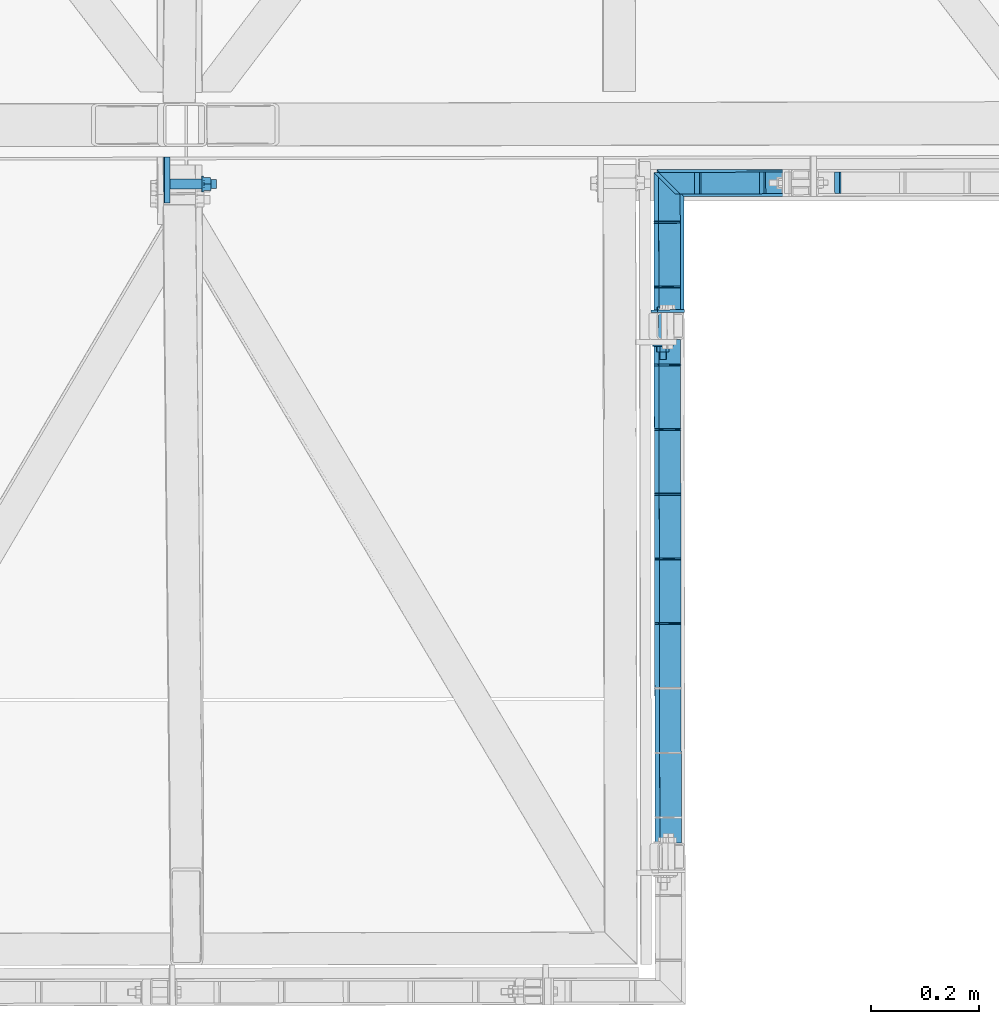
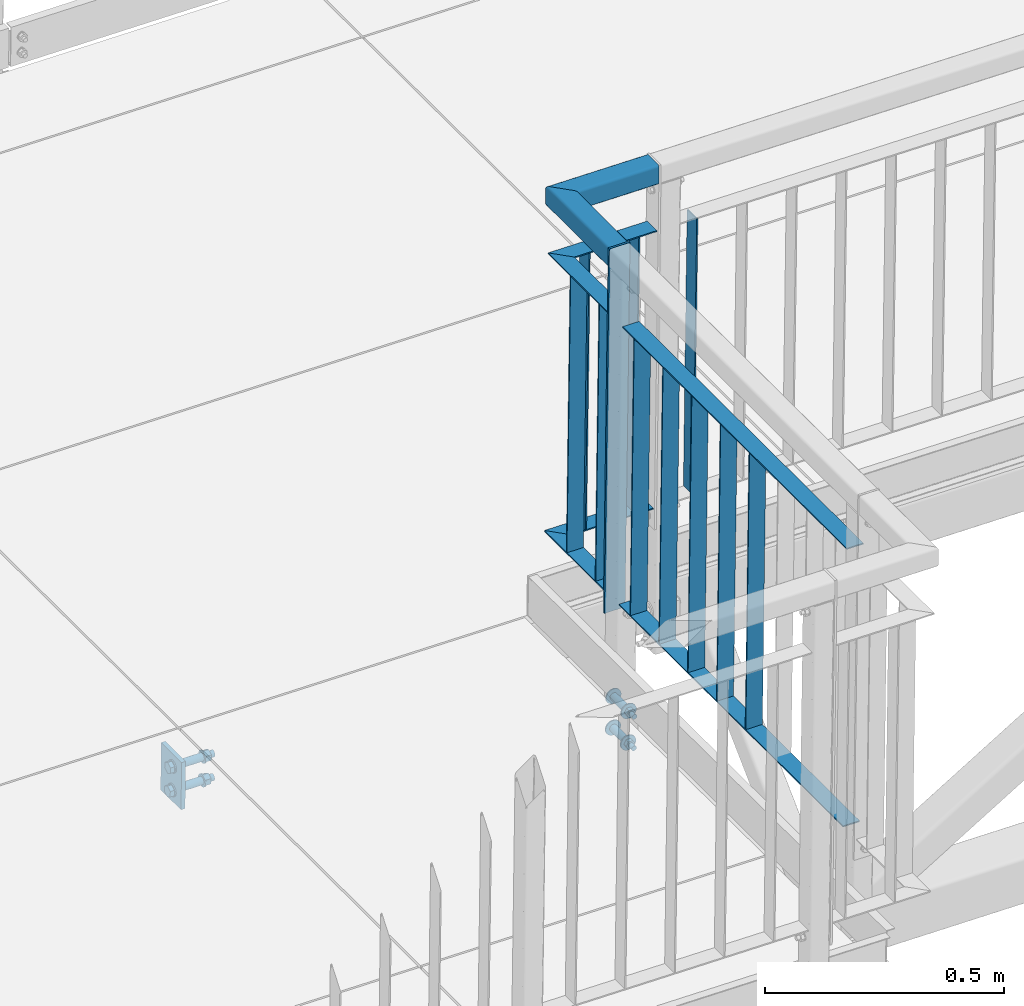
# One storey, part 110 of 169: 20 discrete accessories, 2 mechanical fasteners, 3 elements without a shape of their own.
"""IFC2X3 building model written with IfcOpenShell, lengths in millimetres."""

from ifc_helpers import new_model, si_unit, frame, frame_2d, origin_with_axes, origin_2d_with_axis, place, context, subcontext, project, spatial, polyline, circle_curve, parameter, trimmed, segment, composite_curve, rectangle, hollow_rectangle, circle, outline, extrude, boolean, clip, halfspace, source, transform, mapped, material, type_object, element, aggregate, save


model = new_model("IFC2X3")

# Units and contexts
model_context = context("Model", 3, precision=1e-05, world=origin_with_axes())
body_context = subcontext(model_context, "Body", "Model", "MODEL_VIEW")
ifc_project = project(units=[si_unit("LENGTHUNIT", "METRE", prefix="MILLI"), si_unit("AREAUNIT", "SQUARE_METRE"), si_unit("VOLUMEUNIT", "CUBIC_METRE"), si_unit("MASSUNIT", "GRAM", prefix="KILO"), si_unit("TIMEUNIT", "SECOND"), si_unit("PLANEANGLEUNIT", "RADIAN"), si_unit("SOLIDANGLEUNIT", "STERADIAN"), si_unit("THERMODYNAMICTEMPERATUREUNIT", "DEGREE_CELSIUS"), si_unit("LUMINOUSINTENSITYUNIT", "LUMEN")], contexts=[model_context])

# Site, building, storey
site_placement = place(None, origin_with_axes())
site = spatial("IfcSite", under=ifc_project, at=site_placement, Name="Undefined", CompositionType="ELEMENT")
building_placement = place(site_placement, origin_with_axes())
building = spatial("IfcBuilding", under=site, at=building_placement, Name="Undefined", CompositionType="ELEMENT")
storey_placement = place(building_placement, origin_with_axes())
storey = spatial("IfcBuildingStorey", under=building, at=storey_placement, Name="Undefined", CompositionType="ELEMENT", Elevation=0.0)

# Assembly, discrete accessories, mechanical fastener
assembly_1_placement = place(storey_placement, origin_with_axes())
assembly_1 = element("IfcElementAssembly", 1, at=assembly_1_placement, inside=storey, Name="Steel Assembly", AssemblyPlace="NOTDEFINED", PredefinedType="RIGID_FRAME")
ifc_material_1 = material(Name="STEEL/S235")
discrete_accessory_type_1 = type_object("IfcDiscreteAccessoryType", Name="BLACHA")
discrete_accessory_1_placement = place(assembly_1_placement, frame((10206.4329440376, -223.452963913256, 14083.5351492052), z_axis=(0.00186484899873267, -0.999998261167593, 4.28757666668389e-08), x_axis=(0.9999174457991, 0.00186469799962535, -0.0127131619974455)))
discrete_accessory_1 = element("IfcDiscreteAccessory", 2, at=discrete_accessory_1_placement, type_object=discrete_accessory_type_1, material=ifc_material_1, Name="BLACHA", ObjectType="BL5*50", context=body_context, shape_type="SweptSolid", body=[
    extrude(outline(polyline([(0.0, 0.0), (50.0000000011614, 3.27418092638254e-11), (50.0000000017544, 926.000000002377), (3.10365066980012e-08, 926.000000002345), (0.0, 0.0)])), frame((6.80888809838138e-19, -2.87858853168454e-21, -2.49999999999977), z_axis=(0.0, 0.0, 1.0), x_axis=(1.0, 0.0, 0.0)), (0.0, 0.0, 1.0), 5.0),
])
discrete_accessory_type_2 = type_object("IfcDiscreteAccessoryType", Name="PORĘCZ")
discrete_accessory_2_placement = place(assembly_1_placement, frame((10242.890081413, -225.884938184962, 14984.1445054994), z_axis=(-0.999917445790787, -0.00186469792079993, 0.0127131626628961), x_axis=(-0.0018648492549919, 0.999998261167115, -4.2996762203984e-08)))
discrete_accessory_2 = element("IfcDiscreteAccessory", 3, at=discrete_accessory_2_placement, type_object=discrete_accessory_type_2, material=ifc_material_1, Name="PORĘCZ", ObjectType="RHS50*3", context=body_context, shape_type="Clipping", body=[
    clip(clip(extrude(hollow_rectangle(XDim=50.0, YDim=50.0, WallThickness=3.0, InnerFilletRadius=3.0, OuterFilletRadius=6.0, at=origin_2d_with_axis()), frame((265.346564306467, 1.81899034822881e-12, 7.15958396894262e-18), z_axis=(-1.0, -3.46944695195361e-18, -1.38777878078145e-17), x_axis=(1.73472347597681e-18, -1.0, 0.0)), (0.0, 0.0, 1.0), 260.35), halfspace(frame((264.999998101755, 3.26144800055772e-09, 24.9999997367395), z_axis=(0.70710678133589, 2.34578304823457e-10, -0.707106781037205), x_axis=(0.0, 1.0, 0.0)), False)), halfspace(frame((4.99999708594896, 5.00222085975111e-10, 999.999999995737), z_axis=(1.0, 0.0, 0.0), x_axis=(0.0, 1.0, 0.0)), True)),
])
discrete_accessory_3_placement = place(assembly_1_placement, frame((10058.3546253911, 13.7713459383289, 14986.485027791), z_axis=(-0.0018648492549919, 0.999998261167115, -4.2996762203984e-08), x_axis=(0.9999174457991, 0.00186469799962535, -0.0127131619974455)))
discrete_accessory_3 = element("IfcDiscreteAccessory", 4, at=discrete_accessory_3_placement, type_object=discrete_accessory_type_2, material=ifc_material_1, Name="PORĘCZ", ObjectType="SHS50*3", context=body_context, shape_type="Clipping", body=[
    clip(clip(extrude(hollow_rectangle(XDim=50.0, YDim=50.0, WallThickness=3.0, InnerFilletRadius=3.0, OuterFilletRadius=6.0, at=origin_2d_with_axis()), frame((404.000000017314, 1.81898940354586e-12, -1.67588549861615e-15), z_axis=(-1.0, -3.46944695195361e-18, -1.38777878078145e-17), x_axis=(1.73472347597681e-18, -1.0, 0.0)), (0.0, 0.0, 1.0), 246.62), halfspace(frame((403.999999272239, -5.42058842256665e-10, 999.999999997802), z_axis=(-1.0, -3.46944695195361e-18, -1.38777878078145e-17), x_axis=(1.73472347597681e-18, -1.0, 0.0)), True)), halfspace(frame((159.103091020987, 1.97966073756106e-07, 25.0000000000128), z_axis=(0.707106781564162, 2.34575523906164e-10, 0.707106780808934), x_axis=(0.0, 1.0, 0.0)), True)),
])
discrete_accessory_4_placement = place(assembly_1_placement, frame((10490.4753917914, 14.5771809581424, 14835.9792337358), z_axis=(-0.012713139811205, -2.37511238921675e-05, -0.999919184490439), x_axis=(-0.999917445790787, -0.00186469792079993, 0.0127131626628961)))
discrete_accessory_4 = element("IfcDiscreteAccessory", 5, at=discrete_accessory_4_placement, type_object=discrete_accessory_type_2, material=ifc_material_1, Name="PORĘCZ", ObjectType="BL40*3", context=body_context, shape_type="CSG", body=[
    boolean("DIFFERENCE", boolean("DIFFERENCE", boolean("DIFFERENCE", boolean("DIFFERENCE", extrude(outline(polyline([(229.896909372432, -19.9999999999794), (29.9999999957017, -20.0000000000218), (29.999999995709, 20.0000000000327), (269.896909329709, 20.0000000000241), (229.896909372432, -19.9999999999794)])), frame((1.81898940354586e-12, -1.77635442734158e-15, -1.50000000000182), z_axis=(0.0, 0.0, 1.0), x_axis=(1.0, 0.0, 0.0)), (0.0, 0.0, 1.0), 3.0), extrude(rectangle(XDim=51.0, YDim=51.0, at=origin_2d_with_axis()), frame((-5.94487782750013e-08, -4.65977194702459e-09, -139.999999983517), z_axis=(0.0, 0.0, 1.0), x_axis=(1.0, 0.0, 0.0)), (0.0, 0.0, 1.0), 280.0)), halfspace(frame((269.896909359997, 20.0000000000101, 4.11810106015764e-07), z_axis=(-0.707106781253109, 0.707106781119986, 1.80100347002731e-10), x_axis=(0.0, 0.0, 1.0)), True)), halfspace(frame((29.9999999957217, 999.999999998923, 0.0), z_axis=(1.0, 0.0, 0.0), x_axis=(-2.54700353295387e-10, 0.0, -1.0)), True)), halfspace(frame((24.9999999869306, 1000.00000000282, -1.78988557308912e-09), z_axis=(1.0, 0.0, 0.0), x_axis=(-2.54700353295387e-10, 0.0, -1.0)), True)),
])
discrete_accessory_5_placement = place(assembly_1_placement, frame((10419.7751602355, 14.4453417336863, 14981.8898506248), z_axis=(-0.0018648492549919, 0.999998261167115, -4.2996762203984e-08), x_axis=(-0.012713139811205, -2.37511238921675e-05, -0.999919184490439)))
discrete_accessory_5 = element("IfcDiscreteAccessory", 6, at=discrete_accessory_5_placement, type_object=discrete_accessory_type_2, material=ifc_material_1, Name="PORĘCZ", ObjectType="BL40*3", context=body_context, shape_type="Clipping", body=[
    clip(clip(extrude(rectangle(XDim=3.0, YDim=40.0, at=origin_2d_with_axis()), frame((848.500000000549, 1.47191286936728e-15, -8.89750592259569e-16), z_axis=(-1.0, -3.46944695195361e-18, -1.38777878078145e-17), x_axis=(1.73472347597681e-18, -1.0, 0.0)), (0.0, 0.0, 1.0), 702.0), halfspace(frame((848.499999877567, 4.522007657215e-09, 1000.00000000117), z_axis=(-1.0, -3.46944695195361e-18, -1.38777878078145e-17), x_axis=(1.73472347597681e-18, -1.0, 0.0)), True)), halfspace(frame((146.499999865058, 4.97311702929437e-09, 1000.00000000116), z_axis=(1.0, 0.0, 0.0), x_axis=(0.0, 1.0, 0.0)), True)),
])
discrete_accessory_6_placement = place(assembly_1_placement, frame((10299.7850667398, 14.2215779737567, 14983.4154300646), z_axis=(-0.0018648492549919, 0.999998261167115, -4.2996762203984e-08), x_axis=(-0.012713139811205, -2.37511238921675e-05, -0.999919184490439)))
discrete_accessory_6 = element("IfcDiscreteAccessory", 7, at=discrete_accessory_6_placement, type_object=discrete_accessory_type_2, material=ifc_material_1, Name="PORĘCZ", ObjectType="BL40*3", context=body_context, shape_type="Clipping", body=[
    clip(clip(extrude(rectangle(XDim=3.0, YDim=40.0, at=origin_2d_with_axis()), frame((848.500000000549, 1.47191286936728e-15, -8.89750592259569e-16), z_axis=(-1.0, -3.46944695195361e-18, -1.38777878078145e-17), x_axis=(1.73472347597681e-18, -1.0, 0.0)), (0.0, 0.0, 1.0), 702.0), halfspace(frame((848.499999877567, 4.522007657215e-09, 1000.00000000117), z_axis=(-1.0, -3.46944695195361e-18, -1.38777878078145e-17), x_axis=(1.73472347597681e-18, -1.0, 0.0)), True)), halfspace(frame((146.499999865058, 4.97311702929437e-09, 1000.00000000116), z_axis=(1.0, 0.0, 0.0), x_axis=(0.0, 1.0, 0.0)), True)),
])
discrete_accessory_7_placement = place(assembly_1_placement, frame((10481.5126282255, 14.5604364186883, 14131.0362086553), z_axis=(-0.012713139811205, -2.37511238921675e-05, -0.999919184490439), x_axis=(-0.999917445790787, -0.00186469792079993, 0.0127131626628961)))
discrete_accessory_7 = element("IfcDiscreteAccessory", 8, at=discrete_accessory_7_placement, type_object=discrete_accessory_type_2, material=ifc_material_1, Name="PORĘCZ", ObjectType="BL40*3", context=body_context, shape_type="CSG", body=[
    boolean("DIFFERENCE", boolean("DIFFERENCE", boolean("DIFFERENCE", boolean("DIFFERENCE", extrude(outline(polyline([(229.896909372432, -19.9999999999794), (29.9999999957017, -20.0000000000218), (29.999999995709, 20.0000000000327), (269.896909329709, 20.0000000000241), (229.896909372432, -19.9999999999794)])), frame((1.81898940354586e-12, -1.77635442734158e-15, -1.50000000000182), z_axis=(0.0, 0.0, 1.0), x_axis=(1.0, 0.0, 0.0)), (0.0, 0.0, 1.0), 3.0), extrude(rectangle(XDim=51.0, YDim=51.0, at=origin_2d_with_axis()), frame((-5.94487782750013e-08, -4.65977194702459e-09, -139.999999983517), z_axis=(0.0, 0.0, 1.0), x_axis=(1.0, 0.0, 0.0)), (0.0, 0.0, 1.0), 280.0)), halfspace(frame((269.896909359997, 20.0000000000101, 4.11810106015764e-07), z_axis=(-0.707106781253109, 0.707106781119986, 1.80100347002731e-10), x_axis=(0.0, 0.0, 1.0)), True)), halfspace(frame((29.9999999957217, 999.999999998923, 0.0), z_axis=(1.0, 0.0, 0.0), x_axis=(-2.54700353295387e-10, 0.0, -1.0)), True)), halfspace(frame((24.9999999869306, 1000.00000000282, -1.78988557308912e-09), z_axis=(1.0, 0.0, 0.0), x_axis=(-2.54700353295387e-10, 0.0, -1.0)), True)),
])
discrete_accessory_8_placement = place(assembly_1_placement, frame((10242.5777194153, -58.3852292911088, 14984.1444982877), z_axis=(-0.999917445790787, -0.00186469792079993, 0.0127131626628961), x_axis=(-0.012713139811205, -2.37511238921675e-05, -0.999919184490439)))
discrete_accessory_8 = element("IfcDiscreteAccessory", 9, at=discrete_accessory_8_placement, type_object=discrete_accessory_type_2, material=ifc_material_1, Name="PORĘCZ", ObjectType="BL40*3", context=body_context, shape_type="Clipping", body=[
    clip(clip(extrude(rectangle(XDim=3.0, YDim=40.0, at=origin_2d_with_axis()), frame((848.500000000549, 1.47191286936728e-15, -8.89750592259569e-16), z_axis=(-1.0, -3.46944695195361e-18, -1.38777878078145e-17), x_axis=(1.73472347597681e-18, -1.0, 0.0)), (0.0, 0.0, 1.0), 702.0), halfspace(frame((848.499999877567, 4.522007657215e-09, 1000.00000000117), z_axis=(-1.0, -3.46944695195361e-18, -1.38777878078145e-17), x_axis=(1.73472347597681e-18, -1.0, 0.0)), True)), halfspace(frame((146.499999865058, 4.97311702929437e-09, 1000.00000000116), z_axis=(1.0, 0.0, 0.0), x_axis=(0.0, 1.0, 0.0)), True)),
])
discrete_accessory_9_placement = place(assembly_1_placement, frame((10242.801501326, -178.385020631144, 14984.1445034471), z_axis=(-0.999917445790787, -0.00186469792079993, 0.0127131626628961), x_axis=(-0.012713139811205, -2.37511238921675e-05, -0.999919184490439)))
discrete_accessory_9 = element("IfcDiscreteAccessory", 10, at=discrete_accessory_9_placement, type_object=discrete_accessory_type_2, material=ifc_material_1, Name="PORĘCZ", ObjectType="BL40*3", context=body_context, shape_type="Clipping", body=[
    clip(clip(extrude(rectangle(XDim=3.0, YDim=40.0, at=origin_2d_with_axis()), frame((848.500000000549, 1.47191286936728e-15, -8.89750592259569e-16), z_axis=(-1.0, -3.46944695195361e-18, -1.38777878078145e-17), x_axis=(1.73472347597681e-18, -1.0, 0.0)), (0.0, 0.0, 1.0), 702.0), halfspace(frame((848.499999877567, 4.522007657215e-09, 1000.00000000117), z_axis=(-1.0, -3.46944695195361e-18, -1.38777878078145e-17), x_axis=(1.73472347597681e-18, -1.0, 0.0)), True)), halfspace(frame((146.499999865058, 4.97311702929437e-09, 1000.00000000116), z_axis=(1.0, 0.0, 0.0), x_axis=(0.0, 1.0, 0.0)), True)),
])
discrete_accessory_10_placement = place(assembly_1_placement, frame((10240.6270851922, -0.888773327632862, 14839.1562138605), z_axis=(-0.012713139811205, -2.37511238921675e-05, -0.999919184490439), x_axis=(0.00186484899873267, -0.999998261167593, 4.28757666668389e-08)))
discrete_accessory_10 = element("IfcDiscreteAccessory", 11, at=discrete_accessory_10_placement, type_object=discrete_accessory_type_2, material=ifc_material_1, Name="PORĘCZ", ObjectType="BL40*3", context=body_context, shape_type="CSG", body=[
    boolean("DIFFERENCE", boolean("DIFFERENCE", boolean("DIFFERENCE", boolean("DIFFERENCE", extrude(outline(polyline([(-34.9999980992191, 19.9999999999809), (220.000004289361, 20.0000000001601), (220.000004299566, -19.9999999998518), (5.00000188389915, -20.0000000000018), (-34.9999980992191, 19.9999999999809)])), frame((1.81898940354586e-12, -1.77635442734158e-15, -1.50000000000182), z_axis=(0.0, 0.0, 1.0), x_axis=(1.0, 0.0, 0.0)), (0.0, 0.0, 1.0), 3.0), extrude(rectangle(XDim=51.0, YDim=51.0, at=origin_2d_with_axis()), frame((249.999999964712, -1.18792922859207e-08, -139.999999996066), z_axis=(0.0, 0.0, 1.0), x_axis=(1.0, 0.0, 0.0)), (0.0, 0.0, 1.0), 280.0)), halfspace(frame((220.000002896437, 999.999999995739, 3.80168785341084e-10), z_axis=(-1.0, -3.46944695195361e-18, -1.38777878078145e-17), x_axis=(0.0, 0.0, 1.0)), True)), halfspace(frame((-34.9999980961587, 19.9999999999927, -7.27595761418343e-12), z_axis=(-0.707106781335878, -0.707106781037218, 2.34571939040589e-10), x_axis=(0.0, 0.0, 1.0)), False)), halfspace(frame((224.999999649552, 999.999999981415, 6.55563781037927e-09), z_axis=(-1.0, -3.46944695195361e-18, -1.38777878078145e-17), x_axis=(0.0, 0.0, 1.0)), True)),
])
discrete_accessory_11_placement = place(assembly_1_placement, frame((10241.046676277, -225.88838202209, 14839.1562235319), z_axis=(-0.012713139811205, -2.37511238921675e-05, -0.999919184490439), x_axis=(0.00186484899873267, -0.999998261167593, 4.28757666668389e-08)))
discrete_accessory_11 = element("IfcDiscreteAccessory", 12, at=discrete_accessory_11_placement, type_object=discrete_accessory_type_2, material=ifc_material_1, Name="PORĘCZ", ObjectType="BL40*3", context=body_context, shape_type="CSG", body=[
    boolean("DIFFERENCE", boolean("DIFFERENCE", boolean("DIFFERENCE", boolean("DIFFERENCE", extrude(outline(polyline([(50.5000000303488, 20.0000000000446), (984.50000013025, 20.0000000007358), (984.500000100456, -19.999999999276), (50.500000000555, -19.9999999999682), (50.5000000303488, 20.0000000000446)])), frame((1.81898940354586e-12, -1.77635442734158e-15, -1.50000000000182), z_axis=(0.0, 0.0, 1.0), x_axis=(1.0, 0.0, 0.0)), (0.0, 0.0, 1.0), 3.0), extrude(rectangle(XDim=51.0, YDim=51.0, at=origin_2d_with_axis()), frame((25.0000000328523, 4.80036578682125e-08, -139.999999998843), z_axis=(0.0, 0.0, 1.0), x_axis=(1.0, 0.0, 0.0)), (0.0, 0.0, 1.0), 280.0)), extrude(rectangle(XDim=51.0, YDim=51.0, at=origin_2d_with_axis()), frame((1010.00000013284, -2.03317082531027e-07, -139.999999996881), z_axis=(0.0, 0.0, 1.0), x_axis=(1.0, 0.0, 0.0)), (0.0, 0.0, 1.0), 280.0)), halfspace(frame((50.0000003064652, 999.99999999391, 3.93811205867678e-09), z_axis=(1.0, 0.0, 0.0), x_axis=(-2.54700353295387e-10, 0.0, -1.0)), True)), halfspace(frame((985.000000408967, 1000.00000000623, -1.67892721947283e-09), z_axis=(-1.0, -3.46944695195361e-18, -1.38777878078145e-17), x_axis=(0.0, 0.0, 1.0)), True)),
])
discrete_accessory_12_placement = place(assembly_1_placement, frame((10559.7636024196, 14.7063994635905, 14980.1100079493), z_axis=(-0.0018648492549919, 0.999998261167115, -4.2996762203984e-08), x_axis=(-0.012713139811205, -2.37511238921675e-05, -0.999919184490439)))
discrete_accessory_12 = element("IfcDiscreteAccessory", 13, at=discrete_accessory_12_placement, type_object=discrete_accessory_type_2, material=ifc_material_1, Name="PORĘCZ", ObjectType="BL40*3", context=body_context, shape_type="Clipping", body=[
    clip(clip(extrude(rectangle(XDim=3.0, YDim=40.0, at=origin_2d_with_axis()), frame((848.500000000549, 1.47191286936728e-15, -8.89750592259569e-16), z_axis=(-1.0, -3.46944695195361e-18, -1.38777878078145e-17), x_axis=(1.73472347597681e-18, -1.0, 0.0)), (0.0, 0.0, 1.0), 702.0), halfspace(frame((848.499999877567, 4.522007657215e-09, 1000.00000000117), z_axis=(-1.0, -3.46944695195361e-18, -1.38777878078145e-17), x_axis=(1.73472347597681e-18, -1.0, 0.0)), True)), halfspace(frame((146.499999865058, 4.97311702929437e-09, 1000.00000000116), z_axis=(1.0, 0.0, 0.0), x_axis=(0.0, 1.0, 0.0)), True)),
])
discrete_accessory_13_placement = place(assembly_1_placement, frame((10243.0719042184, -323.384768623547, 14984.1445096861), z_axis=(-0.999917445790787, -0.00186469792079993, 0.0127131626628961), x_axis=(-0.012713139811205, -2.37511238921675e-05, -0.999919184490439)))
discrete_accessory_13 = element("IfcDiscreteAccessory", 14, at=discrete_accessory_13_placement, type_object=discrete_accessory_type_2, material=ifc_material_1, Name="PORĘCZ", ObjectType="BL40*3", context=body_context, shape_type="Clipping", body=[
    clip(clip(extrude(rectangle(XDim=3.0, YDim=40.0, at=origin_2d_with_axis()), frame((848.500000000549, 1.47191286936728e-15, -8.89750592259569e-16), z_axis=(-1.0, -3.46944695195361e-18, -1.38777878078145e-17), x_axis=(1.73472347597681e-18, -1.0, 0.0)), (0.0, 0.0, 1.0), 702.0), halfspace(frame((848.499999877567, 4.522007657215e-09, 1000.00000000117), z_axis=(-1.0, -3.46944695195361e-18, -1.38777878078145e-17), x_axis=(1.73472347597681e-18, -1.0, 0.0)), True)), halfspace(frame((146.499999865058, 4.97311702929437e-09, 1000.00000000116), z_axis=(1.0, 0.0, 0.0), x_axis=(0.0, 1.0, 0.0)), True)),
])
discrete_accessory_14_placement = place(assembly_1_placement, frame((10243.295686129, -443.384559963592, 14984.1445148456), z_axis=(-0.999917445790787, -0.00186469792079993, 0.0127131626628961), x_axis=(-0.012713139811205, -2.37511238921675e-05, -0.999919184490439)))
discrete_accessory_14 = element("IfcDiscreteAccessory", 15, at=discrete_accessory_14_placement, type_object=discrete_accessory_type_2, material=ifc_material_1, Name="PORĘCZ", ObjectType="BL40*3", context=body_context, shape_type="Clipping", body=[
    clip(clip(extrude(rectangle(XDim=3.0, YDim=40.0, at=origin_2d_with_axis()), frame((848.500000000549, 1.47191286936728e-15, -8.89750592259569e-16), z_axis=(-1.0, -3.46944695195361e-18, -1.38777878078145e-17), x_axis=(1.73472347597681e-18, -1.0, 0.0)), (0.0, 0.0, 1.0), 702.0), halfspace(frame((848.499999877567, 4.522007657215e-09, 1000.00000000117), z_axis=(-1.0, -3.46944695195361e-18, -1.38777878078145e-17), x_axis=(1.73472347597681e-18, -1.0, 0.0)), True)), halfspace(frame((146.499999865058, 4.97311702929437e-09, 1000.00000000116), z_axis=(1.0, 0.0, 0.0), x_axis=(0.0, 1.0, 0.0)), True)),
])
discrete_accessory_15_placement = place(assembly_1_placement, frame((10243.5194680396, -563.384351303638, 14984.144520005), z_axis=(-0.999917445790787, -0.00186469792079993, 0.0127131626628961), x_axis=(-0.012713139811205, -2.37511238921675e-05, -0.999919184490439)))
discrete_accessory_15 = element("IfcDiscreteAccessory", 16, at=discrete_accessory_15_placement, type_object=discrete_accessory_type_2, material=ifc_material_1, Name="PORĘCZ", ObjectType="BL40*3", context=body_context, shape_type="Clipping", body=[
    clip(clip(extrude(rectangle(XDim=3.0, YDim=40.0, at=origin_2d_with_axis()), frame((848.500000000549, 1.47191286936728e-15, -8.89750592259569e-16), z_axis=(-1.0, -3.46944695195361e-18, -1.38777878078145e-17), x_axis=(1.73472347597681e-18, -1.0, 0.0)), (0.0, 0.0, 1.0), 702.0), halfspace(frame((848.499999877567, 4.522007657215e-09, 1000.00000000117), z_axis=(-1.0, -3.46944695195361e-18, -1.38777878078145e-17), x_axis=(1.73472347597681e-18, -1.0, 0.0)), True)), halfspace(frame((146.499999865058, 4.97311702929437e-09, 1000.00000000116), z_axis=(1.0, 0.0, 0.0), x_axis=(0.0, 1.0, 0.0)), True)),
])
discrete_accessory_16_placement = place(assembly_1_placement, frame((10243.7432499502, -683.384142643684, 14984.1445251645), z_axis=(-0.999917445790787, -0.00186469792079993, 0.0127131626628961), x_axis=(-0.012713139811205, -2.37511238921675e-05, -0.999919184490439)))
discrete_accessory_16 = element("IfcDiscreteAccessory", 17, at=discrete_accessory_16_placement, type_object=discrete_accessory_type_2, material=ifc_material_1, Name="PORĘCZ", ObjectType="BL40*3", context=body_context, shape_type="Clipping", body=[
    clip(clip(extrude(rectangle(XDim=3.0, YDim=40.0, at=origin_2d_with_axis()), frame((848.500000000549, 1.47191286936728e-15, -8.89750592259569e-16), z_axis=(-1.0, -3.46944695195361e-18, -1.38777878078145e-17), x_axis=(1.73472347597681e-18, -1.0, 0.0)), (0.0, 0.0, 1.0), 702.0), halfspace(frame((848.499999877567, 4.522007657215e-09, 1000.00000000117), z_axis=(-1.0, -3.46944695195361e-18, -1.38777878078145e-17), x_axis=(1.73472347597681e-18, -1.0, 0.0)), True)), halfspace(frame((146.499999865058, 4.97311702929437e-09, 1000.00000000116), z_axis=(1.0, 0.0, 0.0), x_axis=(0.0, 1.0, 0.0)), True)),
])
discrete_accessory_17_placement = place(assembly_1_placement, frame((10243.9670318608, -803.38393398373, 14984.1445303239), z_axis=(-0.999917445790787, -0.00186469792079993, 0.0127131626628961), x_axis=(-0.012713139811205, -2.37511238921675e-05, -0.999919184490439)))
discrete_accessory_17 = element("IfcDiscreteAccessory", 18, at=discrete_accessory_17_placement, type_object=discrete_accessory_type_2, material=ifc_material_1, Name="PORĘCZ", ObjectType="BL40*3", context=body_context, shape_type="Clipping", body=[
    clip(clip(extrude(rectangle(XDim=3.0, YDim=40.0, at=origin_2d_with_axis()), frame((848.500000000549, 1.47191286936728e-15, -8.89750592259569e-16), z_axis=(-1.0, -3.46944695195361e-18, -1.38777878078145e-17), x_axis=(1.73472347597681e-18, -1.0, 0.0)), (0.0, 0.0, 1.0), 702.0), halfspace(frame((848.499999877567, 4.522007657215e-09, 1000.00000000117), z_axis=(-1.0, -3.46944695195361e-18, -1.38777878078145e-17), x_axis=(1.73472347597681e-18, -1.0, 0.0)), True)), halfspace(frame((146.499999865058, 4.97311702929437e-09, 1000.00000000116), z_axis=(1.0, 0.0, 0.0), x_axis=(0.0, 1.0, 0.0)), True)),
])
discrete_accessory_18_placement = place(assembly_1_placement, frame((10231.6643214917, -0.905517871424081, 14134.2131890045), z_axis=(-0.012713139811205, -2.37511238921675e-05, -0.999919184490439), x_axis=(0.00186484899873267, -0.999998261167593, 4.28757666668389e-08)))
discrete_accessory_18 = element("IfcDiscreteAccessory", 19, at=discrete_accessory_18_placement, type_object=discrete_accessory_type_2, material=ifc_material_1, Name="PORĘCZ", ObjectType="BL40*3", context=body_context, shape_type="CSG", body=[
    boolean("DIFFERENCE", boolean("DIFFERENCE", boolean("DIFFERENCE", boolean("DIFFERENCE", extrude(outline(polyline([(-34.9999980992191, 19.9999999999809), (220.000004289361, 20.0000000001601), (220.000004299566, -19.9999999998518), (5.00000188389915, -20.0000000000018), (-34.9999980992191, 19.9999999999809)])), frame((1.81898940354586e-12, -1.77635442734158e-15, -1.50000000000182), z_axis=(0.0, 0.0, 1.0), x_axis=(1.0, 0.0, 0.0)), (0.0, 0.0, 1.0), 3.0), extrude(rectangle(XDim=51.0, YDim=51.0, at=origin_2d_with_axis()), frame((249.999999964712, -1.18792922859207e-08, -139.999999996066), z_axis=(0.0, 0.0, 1.0), x_axis=(1.0, 0.0, 0.0)), (0.0, 0.0, 1.0), 280.0)), halfspace(frame((220.000002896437, 999.999999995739, 3.80168785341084e-10), z_axis=(-1.0, -3.46944695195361e-18, -1.38777878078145e-17), x_axis=(0.0, 0.0, 1.0)), True)), halfspace(frame((-34.9999980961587, 19.9999999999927, -7.27595761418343e-12), z_axis=(-0.707106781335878, -0.707106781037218, 2.34571939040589e-10), x_axis=(0.0, 0.0, 1.0)), False)), halfspace(frame((224.999999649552, 999.999999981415, 6.55563781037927e-09), z_axis=(-1.0, -3.46944695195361e-18, -1.38777878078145e-17), x_axis=(0.0, 0.0, 1.0)), True)),
])
discrete_accessory_19_placement = place(assembly_1_placement, frame((10232.0839125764, -225.905126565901, 14134.2131986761), z_axis=(-0.012713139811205, -2.37511238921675e-05, -0.999919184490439), x_axis=(0.00186484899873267, -0.999998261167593, 4.28757666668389e-08)))
discrete_accessory_19 = element("IfcDiscreteAccessory", 20, at=discrete_accessory_19_placement, type_object=discrete_accessory_type_2, material=ifc_material_1, Name="PORĘCZ", ObjectType="BL40*3", context=body_context, shape_type="CSG", body=[
    boolean("DIFFERENCE", boolean("DIFFERENCE", boolean("DIFFERENCE", boolean("DIFFERENCE", extrude(outline(polyline([(50.5000000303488, 20.0000000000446), (984.50000013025, 20.0000000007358), (984.500000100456, -19.999999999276), (50.500000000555, -19.9999999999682), (50.5000000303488, 20.0000000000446)])), frame((1.81898940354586e-12, -1.77635442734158e-15, -1.50000000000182), z_axis=(0.0, 0.0, 1.0), x_axis=(1.0, 0.0, 0.0)), (0.0, 0.0, 1.0), 3.0), extrude(rectangle(XDim=51.0, YDim=51.0, at=origin_2d_with_axis()), frame((25.0000000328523, 4.80036578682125e-08, -139.999999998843), z_axis=(0.0, 0.0, 1.0), x_axis=(1.0, 0.0, 0.0)), (0.0, 0.0, 1.0), 280.0)), extrude(rectangle(XDim=51.0, YDim=51.0, at=origin_2d_with_axis()), frame((1010.00000013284, -2.03317082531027e-07, -139.999999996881), z_axis=(0.0, 0.0, 1.0), x_axis=(1.0, 0.0, 0.0)), (0.0, 0.0, 1.0), 280.0)), halfspace(frame((50.0000003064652, 999.99999999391, 3.93811205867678e-09), z_axis=(1.0, 0.0, 0.0), x_axis=(-2.54700353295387e-10, 0.0, -1.0)), True)), halfspace(frame((985.000000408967, 1000.00000000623, -1.67892721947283e-09), z_axis=(-1.0, -3.46944695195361e-18, -1.38777878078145e-17), x_axis=(0.0, 0.0, 1.0)), True)),
])
ifc_material_2 = material(Name="Undefined")
discrete_accessory_type_3 = type_object("IfcDiscreteAccessoryType", Name="Bolt assembly")
shared_shape_1 = source(origin_with_axes(), body_context, "Body", "SweptSolid", [
    extrude(circle(Radius=9.0, at=origin_2d_with_axis()), frame((0.0, -5.10000000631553, 0.0), z_axis=(0.0, 1.0, 0.0), x_axis=(1.0, 0.0, 0.0)), (0.0, 0.0, 1.0), 10.1),
    extrude(circle(Radius=9.0, at=origin_2d_with_axis()), frame((0.0, -54.9000041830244, 0.0), z_axis=(0.0, 1.0, 0.0), x_axis=(1.0, 0.0, 0.0)), (0.0, 0.0, 1.0), 50.0),
    extrude(outline(polyline([(10.39230484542, 0.0), (5.19615242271, 9.00000000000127), (-5.19615242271, 9.00000000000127), (-10.39230484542, 0.0), (-5.19615242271, -9.00000000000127), (5.19615242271, -9.00000000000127), (10.39230484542, 0.0)])), frame((0.0, -65.5000041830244, 0.0), z_axis=(0.0, 1.0, 0.0), x_axis=(1.0, 0.0, 0.0)), (0.0, 0.0, 1.0), 7.5),
    extrude(circle(Radius=6.0, at=origin_2d_with_axis()), frame((0.0, -58.0000041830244, 0.0), z_axis=(0.0, 1.0, 0.0), x_axis=(1.0, 0.0, 0.0)), (0.0, 0.0, 1.0), 90.0),
    extrude(circle(Radius=18.5, at=origin_2d_with_axis()), frame((0.0, -58.0000041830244, 0.0), z_axis=(0.0, 1.0, 0.0), x_axis=(1.0, 0.0, 0.0)), (0.0, 0.0, 1.0), 3.0),
    extrude(circle(Radius=18.5, at=origin_2d_with_axis()), frame((0.0, 4.99997856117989, 0.0), z_axis=(0.0, 1.0, 0.0), x_axis=(1.0, 0.0, 0.0)), (0.0, 0.0, 1.0), 3.0),
    extrude(outline(polyline([(10.96965511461, 0.0), (5.484827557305, 9.50000000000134), (-5.484827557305, 9.50000000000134), (-10.96965511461, 0.0), (-5.484827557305, -9.50000000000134), (5.484827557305, -9.50000000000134), (10.96965511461, 0.0)])), frame((0.0, 7.99999999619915, 0.0), z_axis=(0.0, 1.0, 0.0), x_axis=(1.0, 0.0, 0.0)), (0.0, 0.0, 1.0), 10.0),
])
mechanical_fastener_1_placement = place(assembly_1_placement, frame((10228.2517622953, -280.912386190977, 13824.7382134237), z_axis=(0.0132130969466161, 2.46839999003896e-05, 0.9999127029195), x_axis=(-0.999910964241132, -0.00186468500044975, 0.0132131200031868)))
mechanical_fastener_1 = element("IfcMechanicalFastener", 21, at=mechanical_fastener_1_placement, type_object=discrete_accessory_type_3, material=ifc_material_2, Name="Bolt assembly", NominalDiameter=12.0, NominalLength=90.0, context=body_context, shape_type="MappedRepresentation", body=[
    mapped(shared_shape_1, transform((-1.15463194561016e-14, 5.45696821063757e-11, -39.9999999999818))),
    mapped(shared_shape_1, transform((8.88178419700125e-15, -5.54791768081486e-11, 39.99999999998))),
])
aggregate(assembly_1, [discrete_accessory_1, discrete_accessory_2, discrete_accessory_3, discrete_accessory_4, discrete_accessory_5, discrete_accessory_6, discrete_accessory_7, discrete_accessory_8, discrete_accessory_9, discrete_accessory_10, discrete_accessory_11, discrete_accessory_12, discrete_accessory_13, discrete_accessory_14, discrete_accessory_15, discrete_accessory_16, discrete_accessory_17, discrete_accessory_18, discrete_accessory_19, mechanical_fastener_1])

# Assembly, discrete accessory
assembly_2_placement = place(storey_placement, origin_with_axes())
assembly_2 = element("IfcElementAssembly", 22, at=assembly_2_placement, inside=storey, Name="Steel Assembly", AssemblyPlace="NOTDEFINED", PredefinedType="RIGID_FRAME")
ifc_material_3 = material(Name="STEEL/S355")
discrete_accessory_type_4 = type_object("IfcDiscreteAccessoryType", Name="ANGLE")
discrete_accessory_20_placement = place(assembly_2_placement, frame((9308.52000752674, 19.8729815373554, 13895.9295010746), z_axis=(0.00186484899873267, -0.999998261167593, 4.28757666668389e-08), x_axis=(-0.012713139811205, -2.37511238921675e-05, -0.999919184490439)))
discrete_accessory_20 = element("IfcDiscreteAccessory", 23, at=discrete_accessory_20_placement, type_object=discrete_accessory_type_4, material=ifc_material_3, Name="ANGLE", ObjectType="BL85X10", context=body_context, shape_type="SweptSolid", body=[
    extrude(rectangle(XDim=10.0, YDim=85.0, at=origin_2d_with_axis()), frame((119.999999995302, 0.0, 1.94394063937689e-27), z_axis=(-1.0, -3.46944695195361e-18, -1.38777878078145e-17), x_axis=(1.73472347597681e-18, -1.0, 0.0)), (0.0, 0.0, 1.0), 120.0),
])
aggregate(assembly_2, [discrete_accessory_20])

# Assembly, mechanical fastener
assembly_3_placement = place(storey_placement, origin_with_axes())
assembly_3 = element("IfcElementAssembly", 24, at=assembly_3_placement, inside=storey, Name="Steel Assembly", AssemblyPlace="NOTDEFINED", PredefinedType="RIGID_FRAME")
shared_shape_2 = source(origin_with_axes(), body_context, "Body", "SweptSolid", [
    extrude(outline(composite_curve([segment(polyline([(9.5, 10.0), (9.5, -10.0)]), True, "CONTINUOUS"), segment(trimmed(circle_curve(frame_2d((0.0, -10.0), x_axis=(1.0, 0.0)), 9.5), [parameter(0.0)], [parameter(3.14159265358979)], False, "PARAMETER"), True, "CONTINUOUS"), segment(polyline([(-9.5, -10.0), (-9.5, 10.0)]), True, "CONTINUOUS"), segment(trimmed(circle_curve(frame_2d((0.0, 10.0), x_axis=(-1.0, 0.0)), 9.5), [parameter(0.0)], [parameter(3.14159265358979)], False, "PARAMETER"), True, "DISCONTINUOUS")], self_intersect=False)), frame((0.0, -9.90000000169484, 0.0), z_axis=(0.0, 1.0, 0.0), x_axis=(1.0, 0.0, 0.0)), (0.0, 0.0, 1.0), 10.0),
    extrude(circle(Radius=9.5, at=origin_2d_with_axis()), frame((0.0, -0.100000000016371, 0.0), z_axis=(0.0, 1.0, 0.0), x_axis=(1.0, 0.0, 0.0)), (0.0, 0.0, 1.0), 60.1),
    extrude(outline(polyline([(13.85640646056, 0.0), (6.92820323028, 12.0000000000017), (-6.92820323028, 12.0000000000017), (-13.85640646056, 0.0), (-6.92820323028, -12.0000000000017), (6.92820323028, -12.0000000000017), (13.85640646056, 0.0)])), frame((0.0, -22.99999998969, 0.0), z_axis=(0.0, 1.0, 0.0), x_axis=(1.0, 0.0, 0.0)), (0.0, 0.0, 1.0), 10.0),
    extrude(circle(Radius=8.0, at=origin_2d_with_axis()), frame((0.0, -13.0000060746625, 0.0), z_axis=(0.0, 1.0, 0.0), x_axis=(1.0, 0.0, 0.0)), (0.0, 0.0, 1.0), 100.0),
    extrude(circle(Radius=15.0, at=origin_2d_with_axis()), frame((0.0, -13.0000060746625, 0.0), z_axis=(0.0, 1.0, 0.0), x_axis=(1.0, 0.0, 0.0)), (0.0, 0.0, 1.0), 3.0),
    extrude(circle(Radius=15.0, at=origin_2d_with_axis()), frame((0.0, 60.0000000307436, 0.0), z_axis=(0.0, 1.0, 0.0), x_axis=(1.0, 0.0, 0.0)), (0.0, 0.0, 1.0), 3.0),
    extrude(outline(polyline([(13.85640646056, 0.0), (6.92820323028, 12.0000000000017), (-6.92820323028, 12.0000000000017), (-13.85640646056, 0.0), (-6.92820323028, -12.0000000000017), (6.92820323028, -12.0000000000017), (13.85640646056, 0.0)])), frame((0.0, 63.0000000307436, 0.0), z_axis=(0.0, 1.0, 0.0), x_axis=(1.0, 0.0, 0.0)), (0.0, 0.0, 1.0), 13.0),
])
mechanical_fastener_2_placement = place(assembly_3_placement, frame((9313.4403386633, 62.382231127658, 13895.8659334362), z_axis=(0.00186484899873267, -0.999998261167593, 4.28757666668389e-08), x_axis=(-0.012713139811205, -2.37511238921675e-05, -0.999919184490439)))
mechanical_fastener_2 = element("IfcMechanicalFastener", 25, at=mechanical_fastener_2_placement, type_object=discrete_accessory_type_3, material=ifc_material_2, Name="Bolt assembly", NominalDiameter=16.0, NominalLength=100.0, context=body_context, shape_type="MappedRepresentation", body=[
    mapped(shared_shape_2, transform((29.9999999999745, 9.09494701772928e-13, 50.0000000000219))),
    mapped(shared_shape_2, transform((89.9999999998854, -1.09139364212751e-11, 50.0000000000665))),
])
aggregate(assembly_3, [mechanical_fastener_2])

save(model, "model.ifc")
